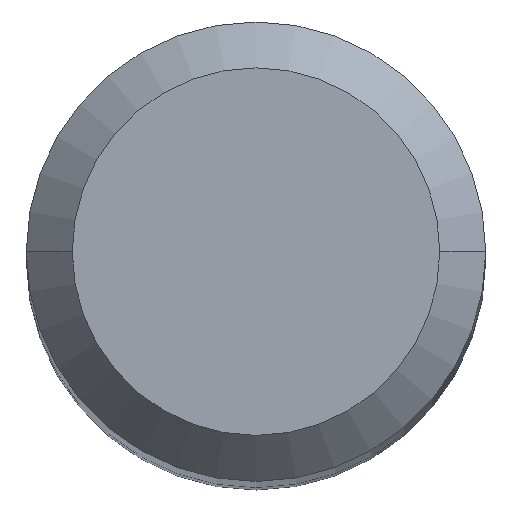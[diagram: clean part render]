
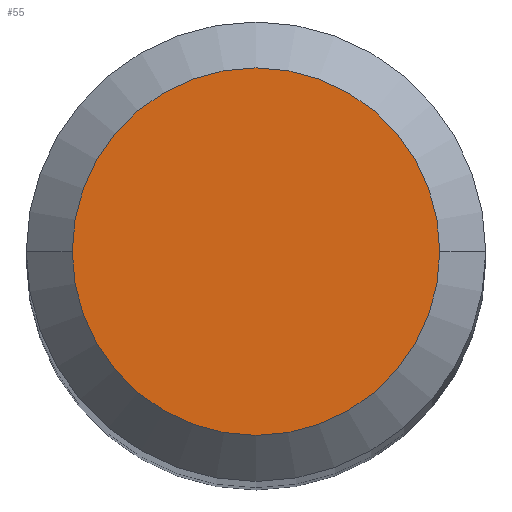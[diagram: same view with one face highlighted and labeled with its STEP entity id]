
A CAD part, top view. The second image highlights one B-rep face of the part: STEP entity #55.
In plain terms, the highlighted planar face has unit normal (0, 0, 1).
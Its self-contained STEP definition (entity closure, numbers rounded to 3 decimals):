
#10 = CARTESIAN_POINT ( 'NONE',  ( 0., 0., 0. ) ) ;
#11 = AXIS2_PLACEMENT_3D ( 'NONE', #10, #140, #229 ) ;
#33 = PLANE ( 'NONE',  #153 ) ;
#40 = CARTESIAN_POINT ( 'NONE',  ( -2.56, 0., 0. ) ) ;
#55 = ADVANCED_FACE ( 'NONE', ( #373 ), #33, .T. ) ;
#74 = DIRECTION ( 'NONE',  ( -1., 0., 0. ) ) ;
#89 = VERTEX_POINT ( 'NONE', #395 ) ;
#98 = DIRECTION ( 'NONE',  ( 0., 0., 1. ) ) ;
#133 = CARTESIAN_POINT ( 'NONE',  ( 0., 0., 0. ) ) ;
#140 = DIRECTION ( 'NONE',  ( 0., 0., -1. ) ) ;
#150 = VERTEX_POINT ( 'NONE', #40 ) ;
#152 = EDGE_LOOP ( 'NONE', ( #238, #272 ) ) ;
#153 = AXIS2_PLACEMENT_3D ( 'NONE', #281, #98, #215 ) ;
#161 = EDGE_CURVE ( 'NONE', #89, #150, #190, .T. ) ;
#190 = CIRCLE ( 'NONE', #11, 2.56 ) ;
#215 = DIRECTION ( 'NONE',  ( 1., 0., 0. ) ) ;
#229 = DIRECTION ( 'NONE',  ( -1., 0., 0. ) ) ;
#238 = ORIENTED_EDGE ( 'NONE', *, *, #277, .F. ) ;
#272 = ORIENTED_EDGE ( 'NONE', *, *, #161, .F. ) ;
#277 = EDGE_CURVE ( 'NONE', #150, #89, #329, .T. ) ;
#281 = CARTESIAN_POINT ( 'NONE',  ( 0., 2.56, 0. ) ) ;
#329 = CIRCLE ( 'NONE', #380, 2.56 ) ;
#373 = FACE_OUTER_BOUND ( 'NONE', #152, .T. ) ;
#380 = AXIS2_PLACEMENT_3D ( 'NONE', #133, #384, #74 ) ;
#384 = DIRECTION ( 'NONE',  ( 0., 0., -1. ) ) ;
#395 = CARTESIAN_POINT ( 'NONE',  ( 2.56, 0., 0. ) ) ;
